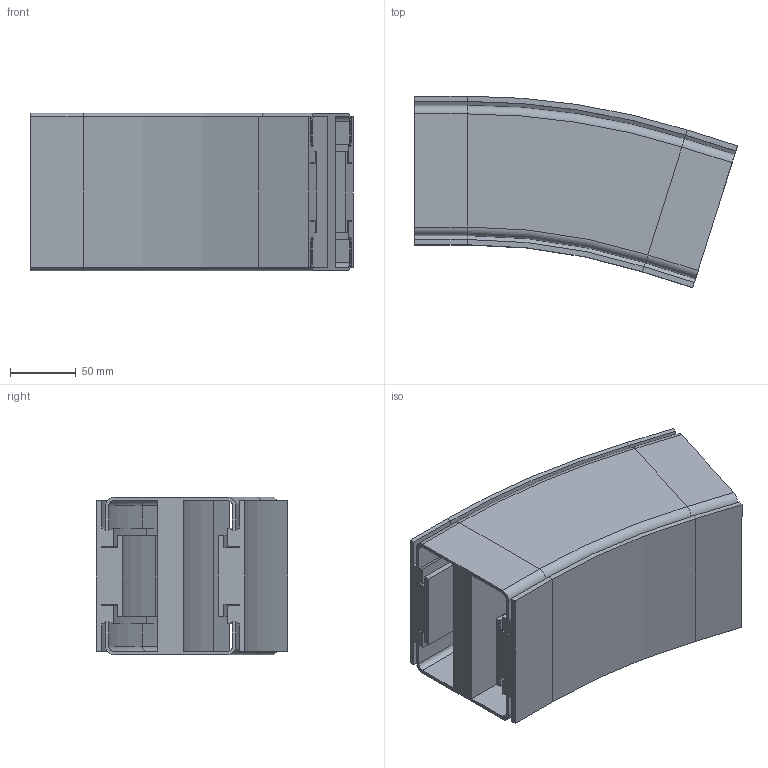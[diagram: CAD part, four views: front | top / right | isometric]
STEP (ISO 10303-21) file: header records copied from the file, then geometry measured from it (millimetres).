
FILE_DESCRIPTION (( 'STEP AP214' ), '1' );
FILE_NAME ('VC.120 Verticale bochtsectie.R500 17,5.STEP', '2017-02-08T08:10:10', ( '' ), ( '' ), 'SwSTEP 2.0', 'SolidWorks 2016', '' );
FILE_SCHEMA (( 'AUTOMOTIVE_DESIGN' ));
Length unit declared in the file: millimetre
Products named in the file (1): VC.120 Verticale bochtsectie.R500 17,5
Bounding box: 245.49 x 145.55 x 120 mm (x, y, z)
Volume: 1372125.6 mm3; surface area: 343577.5 mm2
Topology: 1 solids, 1 shells, 206 faces, 476 edges, 272 vertices
Faces by surface type: plane 144, cylinder 46, cone 8, torus 8
Entity records: 5674 total; most frequent: DIRECTION 990, CARTESIAN_POINT 955, ORIENTED_EDGE 952, EDGE_CURVE 476, LINE 376, VECTOR 376, AXIS2_PLACEMENT_3D 307, VERTEX_POINT 272
